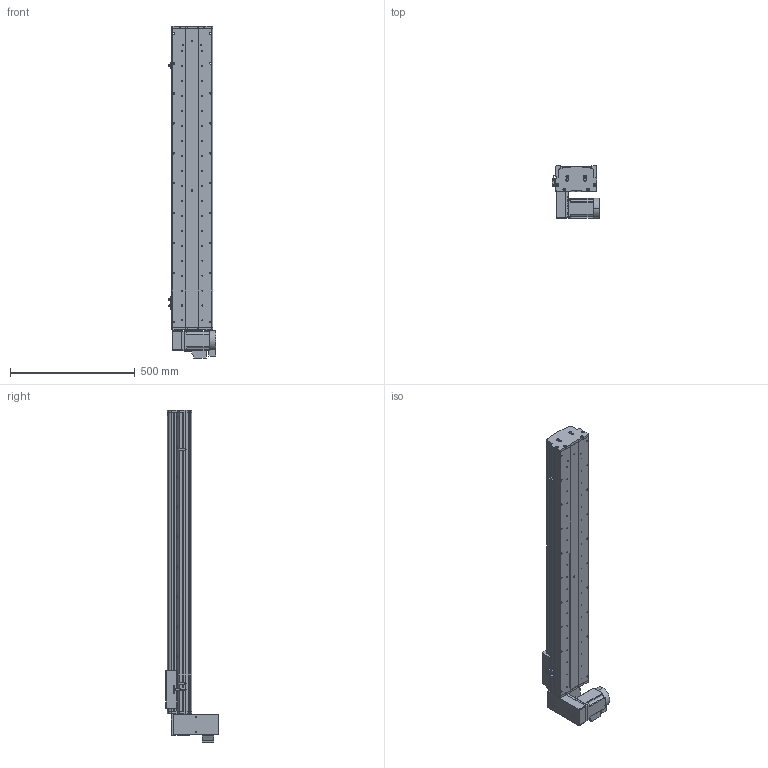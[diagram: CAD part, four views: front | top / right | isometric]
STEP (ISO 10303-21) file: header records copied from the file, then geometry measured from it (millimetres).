
FILE_DESCRIPTION (( 'STEP AP214' ), '1' );
FILE_NAME ('KSD165B-S950-MLD-CM .STEP', '2017-10-16T07:08:54', ( '微软用户' ), ( '微软中国' ), 'SwSTEP 2.0', 'SolidWorks 2014', '' );
FILE_SCHEMA (( 'AUTOMOTIVE_DESIGN' ));
Length unit declared in the file: millimetre
Products named in the file (17): 130宽模组保护罩上下左右折-同步带; HTPA26S5M250-A-H8 750W萇儂蚚; HTPA26S5M250-A-H8 400W萇儂蚚 ; 165宽马达安装板同步带左-改; KSD165模组-同步带防尘盖1-950行程-最新版; KSD165模组同步带底板-950行程-最新; 拸秶雄ん750W侜督萇儂; U倰嫖萇假蚾璃; U倰嫖萇EEㄜSX672; 覜茼え68遵圉猾敕; KSD165模组-同步带-防撞垫2; KSD165模组同步带-防撞垫1; KSD165耀郪-ヶ傷啣1-肮祭湍; KSD165模组-后端板1-同步带; KSD165模组-同步带滑动座-最新版; KSD165B-S950-MLD-CM ; 130宽模组马达安装板连板上下折丝杆同步带
Assembly tree (20 placements, depth 2):
  KSD165B-S950-MLD-CM 
    KSD165模组-同步带滑动座-最新版
    KSD165模组-后端板1-同步带
    KSD165耀郪-ヶ傷啣1-肮祭湍
    KSD165模组同步带-防撞垫1
    KSD165模组-同步带-防撞垫2
    覜茼え68遵圉猾敕
    U倰嫖萇EEㄜSX672  x3
    U倰嫖萇假蚾璃  x3
    拸秶雄ん750W侜督萇儂
    KSD165模组同步带底板-950行程-最新
    KSD165模组-同步带防尘盖1-950行程-最新版
    165宽马达安装板同步带左-改
    HTPA26S5M250-A-H8 400W萇儂蚚 
    HTPA26S5M250-A-H8 750W萇儂蚚
    130宽模组保护罩上下左右折-同步带
    130宽模组马达安装板连板上下折丝杆同步带
Bounding box: 191.2 x 210 x 1331 mm (x, y, z)
Volume: 7693654.3 mm3; surface area: 1787380 mm2
Topology: 21 solids, 22 shells, 1965 faces, 5544 edges, 3620 vertices
Faces by surface type: cylinder 1265, plane 588, cone 112
Entity records: 63816 total; most frequent: CARTESIAN_POINT 13062, DIRECTION 10488, ORIENTED_EDGE 9748, EDGE_CURVE 4874, AXIS2_PLACEMENT_3D 4116, VERTEX_POINT 3212, CIRCLE 2348, VECTOR 2256
